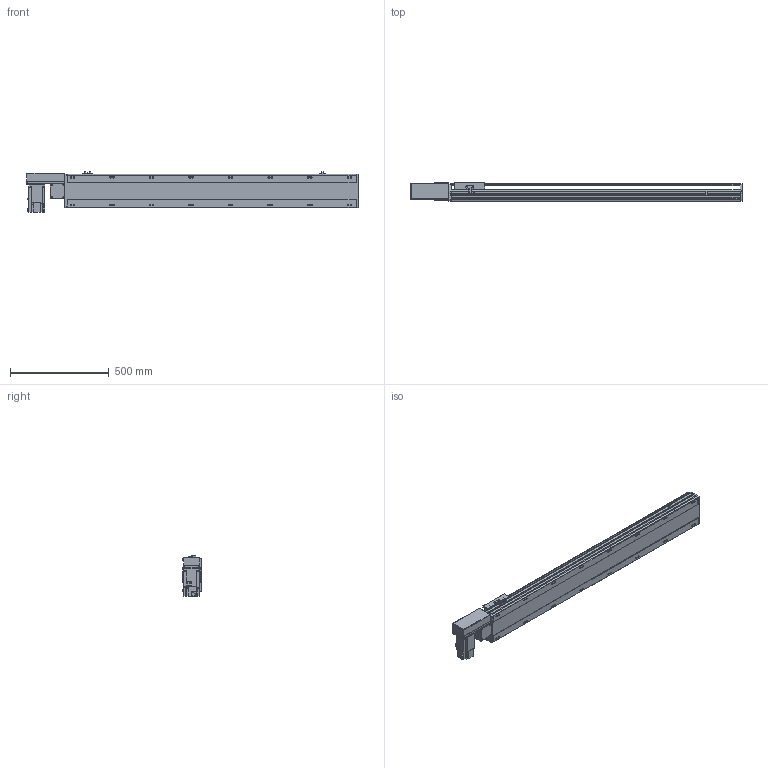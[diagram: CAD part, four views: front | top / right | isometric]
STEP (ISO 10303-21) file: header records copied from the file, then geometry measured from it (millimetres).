
FILE_DESCRIPTION( ( 'STEP AP214' ), '1' );
FILE_NAME( 'x:/temp/worker_4/temp/exporttempdir_2248_265_yBqEQ/format_0/PBS170-P40-S1200-R-T75-C1-N(0).stp', '2022-06-07T07:30:19', ( 'License CC BY-ND 4.0' ), ( 'CADENAS' ), ' ', 'PARTsolutions', ' ' );
FILE_SCHEMA( ( 'AUTOMOTIVE_DESIGN { 1 0 10303 214 1 1 1 1 }' ) );
Length unit declared in the file: millimetre
Products named in the file (7): PBS170-P40-S1200-R-T75-C1-N(0); _PBS170-S1200()_body; _PBS170T-R_motors; _T75-p1; _PBS170_sliser; _PBS170_plant; _PBS170_sensor
Assembly tree (8 placements, depth 2):
  PBS170-P40-S1200-R-T75-C1-N(0)
    _PBS170-S1200()_body
    _PBS170T-R_motors
    _T75-p1
    _PBS170_sliser
    _PBS170_plant
    _PBS170_sensor  x3
Bounding box: 1678 x 97 x 205.3 mm (x, y, z)
Volume: 12417725.7 mm3; surface area: 1611227.9 mm2
Topology: 8 solids, 8 shells, 1082 faces, 2875 edges, 1874 vertices
Faces by surface type: plane 687, cylinder 339, cone 46, sphere 8, torus 2
Full cylindrical faces by diameter (mm): 3.242 x4, 4 x2, 4.4 x4, 4.5 x6, 4.917 x4, 6 x9, 6.647 x24, 7 x2, 7.5 x4, 8 x8, 8.5 x16, 10 x4, 10.5 x16, 11 x2, 30 x2, 40 x1, 70 x1
Entity records: 39740 total; most frequent: CARTESIAN_POINT 6221, DIRECTION 5300, ORIENTED_EDGE 5028, EDGE_CURVE 2514, AXIS2_PLACEMENT_3D 1837, VERTEX_POINT 1730, LINE 1626, VECTOR 1626
